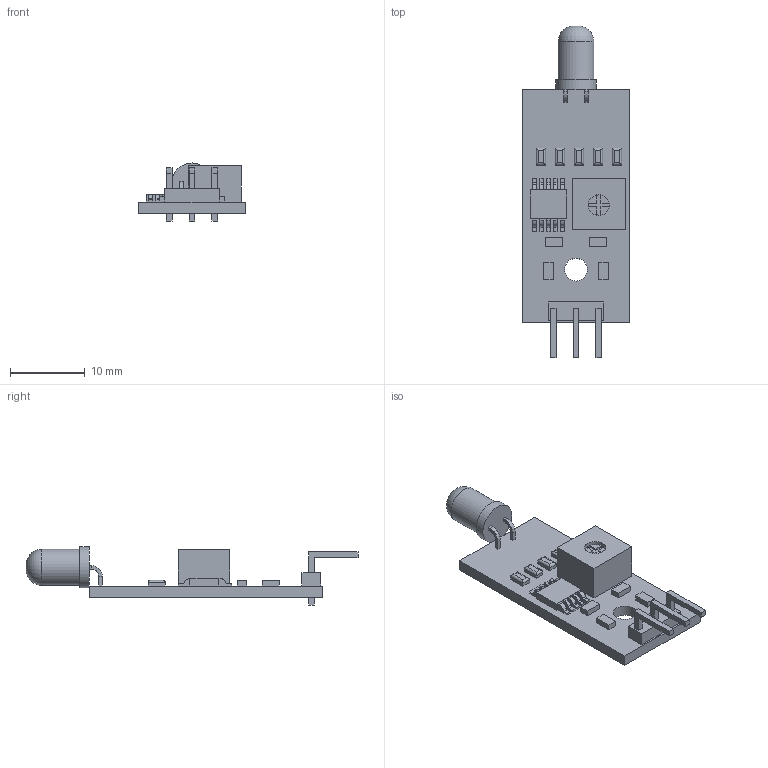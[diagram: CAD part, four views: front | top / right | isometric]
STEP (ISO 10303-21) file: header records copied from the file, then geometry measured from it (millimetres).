
FILE_DESCRIPTION(/* description */ ('STEP AP242 Edition 2','CAx-IF Rec.Pracs.---Representation and Presentation of Product Manufacturing Information (PMI)---4.0---2014-10-13','CAx-IF Rec.Pracs.---3D Tessellated Geometry---0.4---2014-09-14','2;1','CAx-IF Rec.Pracs.---User Defined Attributes---1.5---2016-08-15'),/* implementation_level */ '2;1');
FILE_NAME(/* name */ 'Assem2h - Flame Sensor (2)',/* time_stamp */ '2025-12-01T14:50:24Z',/* author */ (''),/* organization */ (''),/* preprocessor_version */ 'ST-DEVELOPER v20',/* originating_system */ 'ONSHAPE BY PTC INC, 1.207',/* authorisation */ ' ');
FILE_SCHEMA (('AP242_MANAGED_MODEL_BASED_3D_ENGINEERING_MIM_LF { 1 0 10303 442 3 1 4 }'));
Length unit declared in the file: metre
Products named in the file (1): Flame Sensor
Bounding box: 14.22 x 44.39 x 7.76 mm (x, y, z)
Volume: 1140.7 mm3; surface area: 1544.7 mm2
Topology: 1 solids, 1 shells, 241 faces, 605 edges, 386 vertices
Faces by surface type: plane 188, cylinder 52, torus 1
Full cylindrical faces by diameter (mm): 2.794 x1, 3.048 x1, 4.8 x1, 5.45 x1
Entity records: 8331 total; most frequent: CARTESIAN_POINT 1226, ORIENTED_EDGE 1198, DIRECTION 1176, EDGE_CURVE 599, LINE 506, VECTOR 506, VERTEX_POINT 385, AXIS2_PLACEMENT_3D 335
